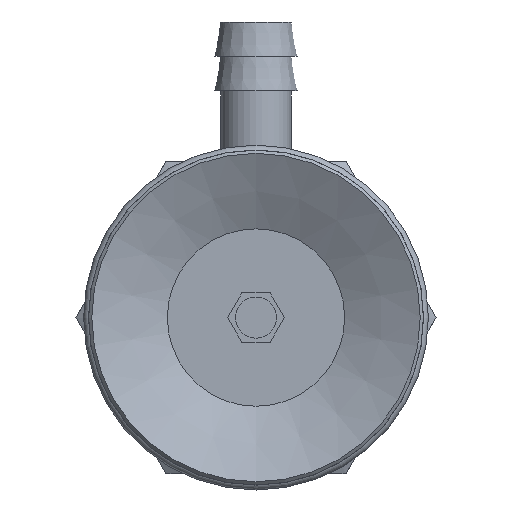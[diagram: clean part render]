
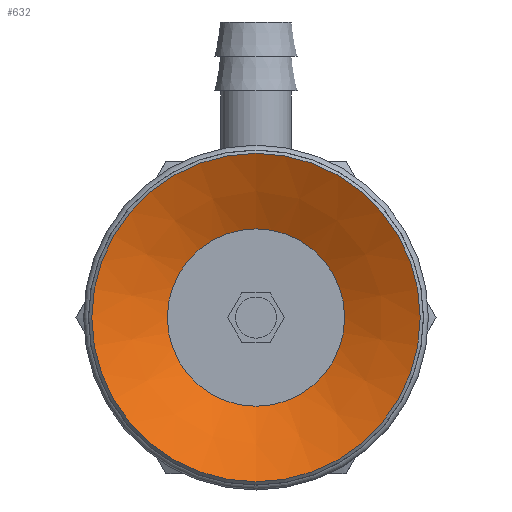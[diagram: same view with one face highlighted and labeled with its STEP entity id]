
A CAD part, front view. The second image highlights one B-rep face of the part: STEP entity #632.
In plain terms, the highlighted conical face has half-angle 63 degrees and reference radius 5.4 mm.
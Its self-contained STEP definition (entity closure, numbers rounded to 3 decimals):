
#632=ADVANCED_FACE('',(#946,#947),#948,.F.);
#946=FACE_BOUND('',#1291,.T.);
#947=FACE_OUTER_BOUND('',#1292,.T.);
#948=CONICAL_SURFACE('',#1293,5.4,1.1);
#1291=EDGE_LOOP('',(#2133));
#1292=EDGE_LOOP('',(#2134));
#1293=AXIS2_PLACEMENT_3D('',#2135,#2136,#2137);
#2133=ORIENTED_EDGE('',*,*,#2461,.F.);
#2134=ORIENTED_EDGE('',*,*,#2467,.T.);
#2135=CARTESIAN_POINT('',(0.0,5.518,0.0));
#2136=DIRECTION('',(-0.0,-1.0,0.));
#2137=DIRECTION('',(0.0,0.,-1.0));
#2461=EDGE_CURVE('',#2855,#2855,#2856,.T.);
#2467=EDGE_CURVE('',#2867,#2867,#2868,.T.);
#2855=VERTEX_POINT('',#3719);
#2856=CIRCLE('',#3720,5.4);
#2867=VERTEX_POINT('',#3731);
#2868=CIRCLE('',#3732,10.0);
#3719=CARTESIAN_POINT('',(0.0,5.518,-5.4));
#3720=AXIS2_PLACEMENT_3D('',#4132,#4133,#4134);
#3731=CARTESIAN_POINT('',(0.0,3.175,-10.0));
#3732=AXIS2_PLACEMENT_3D('',#4150,#4151,#4152);
#4132=CARTESIAN_POINT('',(0.0,5.518,0.0));
#4133=DIRECTION('',(0.0,-1.0,0.));
#4134=DIRECTION('',(0.0,0.,-1.0));
#4150=CARTESIAN_POINT('',(0.0,3.175,0.0));
#4151=DIRECTION('',(0.0,-1.0,0.));
#4152=DIRECTION('',(0.0,0.,-1.0));
